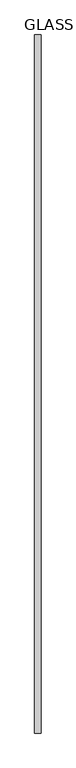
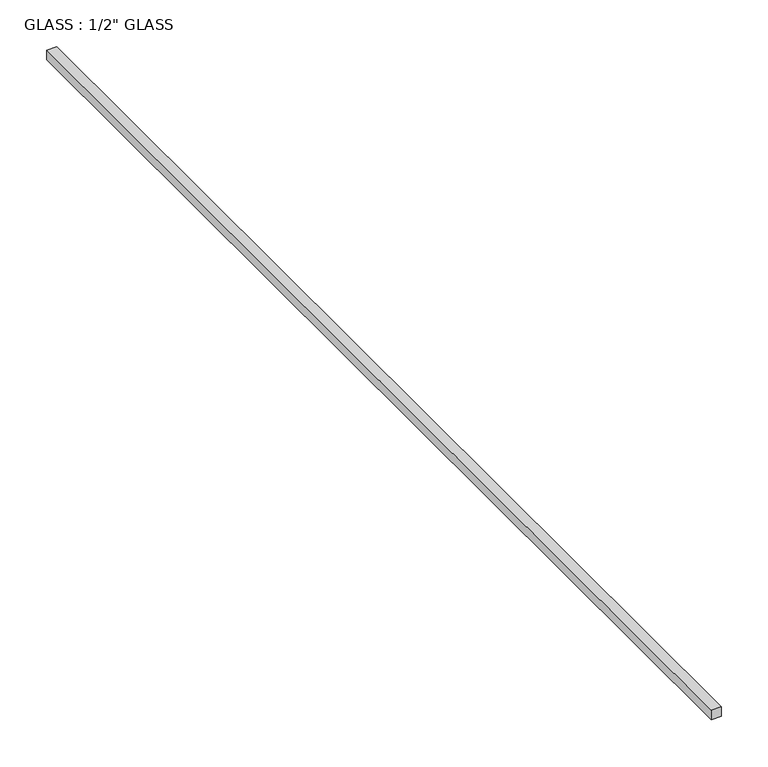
"""IFC4 building model written with IfcOpenShell, lengths in millimetres: proxy geometry."""

from ifc_helpers import new_model, si_unit, frame, origin, place, context, project, spatial, polyline, outline, extrude, source, transform, mapped, element, save


def proxy_f612d073(model_context):
    return source(origin(), model_context, "Body", "SweptSolid", [
        extrude(outline(polyline([(-6.35, 0.0), (6.35, 0.0), (6.35, -1423.4679195), (-6.35, -1423.4679195), (-6.35, 0.0)])), frame((0.0, 0.0, -6.35), z_axis=(0.0, 0.0, 1.0), x_axis=(1.0, 0.0, 0.0)), (0.0, 0.0, 1.0), 12.7),
    ])


if __name__ == "__main__":
    model = new_model("IFC4")
    model_context = context("Model", 3, world=origin())
    ifc_project = project(units=[si_unit("LENGTHUNIT", "METRE", prefix="MILLI")], contexts=[model_context])
    site = spatial("IfcSite", under=ifc_project)
    building = spatial("IfcBuilding", under=site)
    placement = place(None, origin())
    proxy_shape = proxy_f612d073(model_context)
    element("IfcBuildingElementProxy", 1, Name="GLASS : 1/2\" GLASS", ObjectType="GLASS : 1/2\" GLASS", at=placement, inside=building, context=model_context, shape_type="MappedRepresentation", body=[
        mapped(proxy_shape, transform((0.0, 0.0, 0.0), x_axis=(1.0, 0.0, 0.0), y_axis=(0.0, 1.0, 0.0), z_axis=(0.0, 0.0, 1.0))),
    ])
    save(model, "model.ifc")
